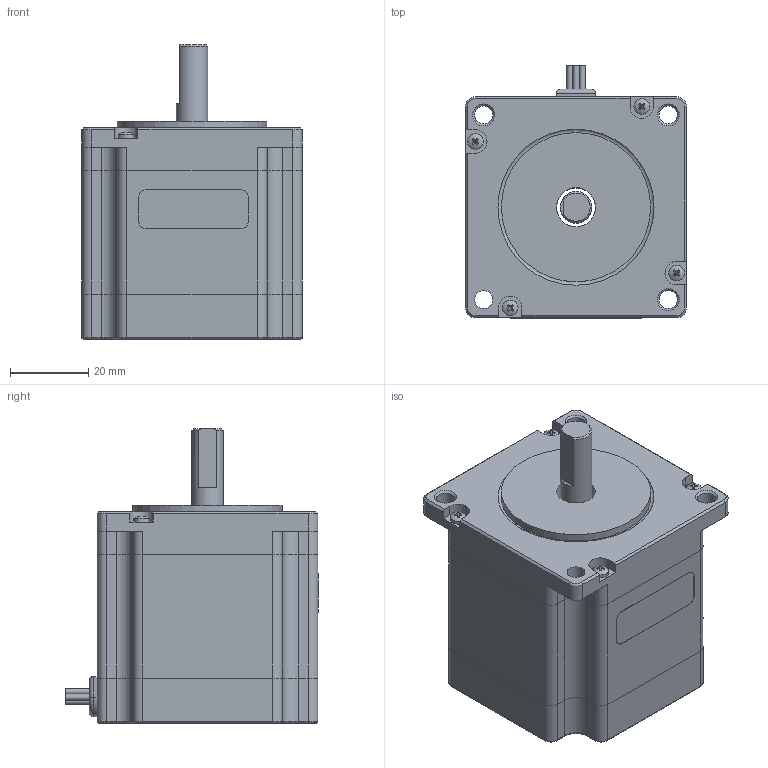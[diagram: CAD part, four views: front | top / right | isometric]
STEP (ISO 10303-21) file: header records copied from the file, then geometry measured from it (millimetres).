
FILE_DESCRIPTION(/* description */ ('FreeCAD Model'),/* implementation_level */ '2;1');
FILE_NAME(/* name */ 'nema23_57HS56.stp',/* time_stamp */ '2025-01-02T11:47:52+01:00',/* author */ ('R5800u'),/* organization */ (''),/* preprocessor_version */ 'ST-DEVELOPER v20',/* originating_system */ 'Autodesk Inventor 2025',/* authorisation */ 'Unknown');
FILE_SCHEMA (('AUTOMOTIVE_DESIGN { 1 0 10303 214 3 1 1 }'));
Products named in the file (12): nema23_57byg201; Up; Bottom; Middle; M2x50-Screw; Rubber; RedWire; GreenWire; BlueWire; YellowWire; albero_1; etichetta
Assembly tree (14 placements, depth 2):
  nema23_57byg201
    Up
    Bottom
    Middle
    M2x50-Screw  x4
    Rubber
    RedWire
    GreenWire
    BlueWire
    YellowWire
    albero_1
    etichetta
Bounding box: 56.4 x 64.5 x 75.1 mm (x, y, z)
Volume: 98422.6 mm3; surface area: 36286.8 mm2
Topology: 14 solids, 14 shells, 808 faces, 2043 edges, 1268 vertices
Faces by surface type: bspline 340, cylinder 249, plane 168, cone 28, torus 19, sphere 4
Full cylindrical faces by diameter (mm): 1.6 x4, 1.619 x112, 2 x4, 2.2 x4, 4 x4, 4.6 x4, 5.266 x1, 5.634 x1, 7.546 x1, 8 x1, 10 x2, 38.1 x1, 49.577 x1
Entity records: 78260 total; most frequent: CARTESIAN_POINT 62682, ORIENTED_EDGE 3652, DIRECTION 2119, EDGE_CURVE 1826, VERTEX_POINT 1126, LINE 797, VECTOR 797, B_SPLINE_CURVE_WITH_KNOTS 780
